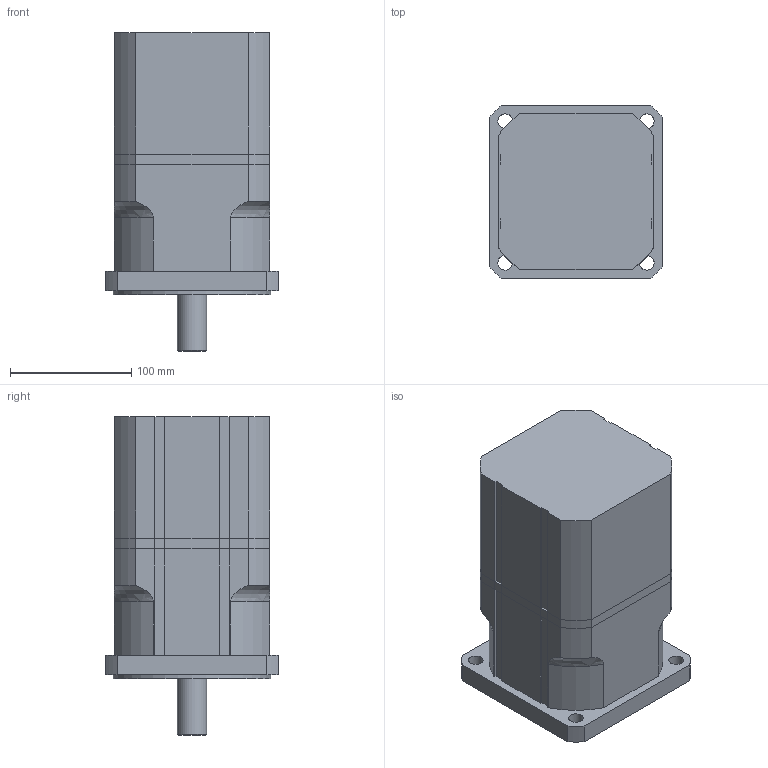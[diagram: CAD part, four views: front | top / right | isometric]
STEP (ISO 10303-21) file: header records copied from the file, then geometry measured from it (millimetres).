
FILE_DESCRIPTION(/* description */ ('Alibre Inc.'),/* implementation_level */ '2;1');
FILE_NAME(/* name */ 'export0',/* time_stamp */ '2010-12-17T13:51:23+01:00',/* author */ (''),/* organization */ (''),/* preprocessor_version */ 'ST-DEVELOPER v12',/* originating_system */ 'Alibre',/* authorisation */ '');
FILE_SCHEMA (('ALIBRE_SCHEMA','CONFIG_CONTROL_DESIGN'));
Length unit declared in the file: millimetre
Products named in the file (4): ID_1
Bounding box: 142 x 142 x 262.5 mm (x, y, z)
Volume: 3854979.8 mm3; surface area: 207490.4 mm2
Topology: 3 solids, 3 shells, 164 faces, 445 edges, 296 vertices
Faces by surface type: plane 80, cylinder 68, bspline 8, torus 4, cone 4
Full cylindrical faces by diameter (mm): 2.7 x4, 20 x5, 22 x2, 24 x1, 52 x1, 130 x1
Entity records: 17227 total; most frequent: CARTESIAN_POINT 4480, ORIENTED_EDGE 2036, DIRECTION 1986, EDGE_CURVE 1018, AXIS2_PLACEMENT_3D 745, VERTEX_POINT 714, VECTOR 701, LINE 662
